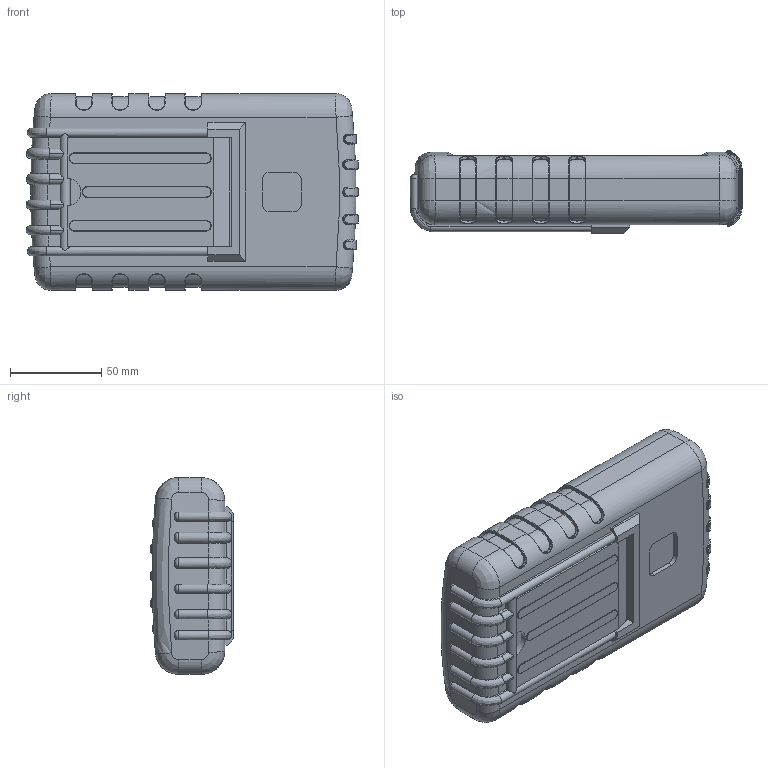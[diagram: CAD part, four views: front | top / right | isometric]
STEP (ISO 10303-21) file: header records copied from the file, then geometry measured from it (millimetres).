
FILE_DESCRIPTION (( 'STEP AP214' ), '1' );
FILE_NAME ('91-43-29V-R.STEP', '2020-10-20T00:45:51', ( 'Rudy' ), ( '' ), 'SwSTEP 2.0', 'SolidWorks 2014', '' );
FILE_SCHEMA (( 'AUTOMOTIVE_DESIGN' ));
Length unit declared in the file: millimetre
Products named in the file (8): 90 RBT; RT 90 stand; 90 PCB 29V-4AA; 29V door; 91 LCD Top; 90-29V Deep; 91-43-29V-R
Assembly tree (7 placements, depth 3):
  91-43-29V-R
    90-29V Deep
    91 LCD Top
    29V door
    90 PCB 29V-4AA
    90 RBT
      90 RBT
      RT 90 stand
Bounding box: 182.05 x 45.61 x 108 mm (x, y, z)
Volume: 357299.3 mm3; surface area: 207496.7 mm2
Topology: 6 solids, 6 shells, 1431 faces, 3697 edges, 2301 vertices
Faces by surface type: plane 605, cylinder 438, bspline 180, torus 128, cone 62, sphere 18
Entity records: 55672 total; most frequent: CARTESIAN_POINT 21521, ORIENTED_EDGE 7358, DIRECTION 6832, EDGE_CURVE 3679, AXIS2_PLACEMENT_3D 2426, VERTEX_POINT 2293, LINE 1980, VECTOR 1980
